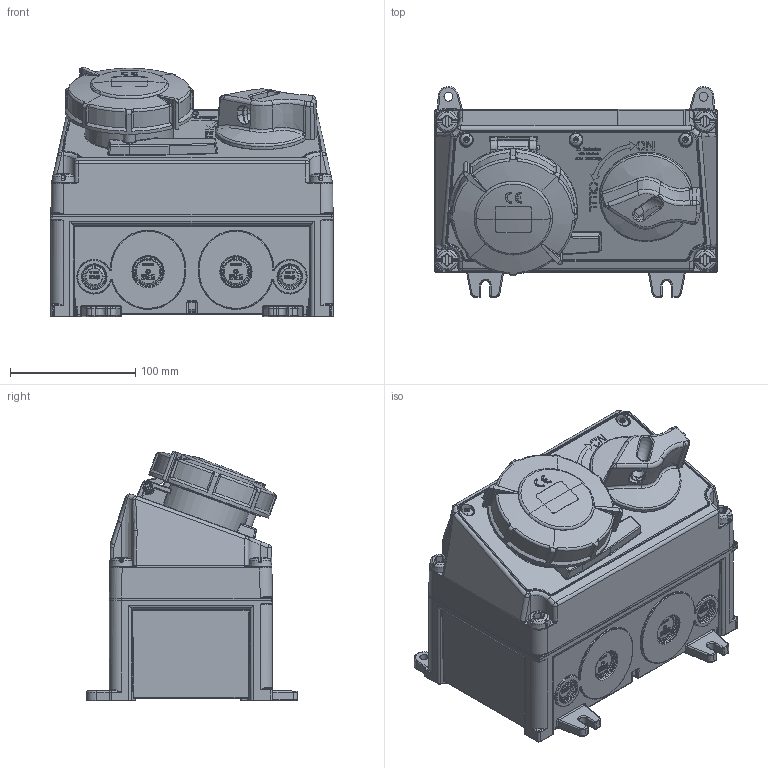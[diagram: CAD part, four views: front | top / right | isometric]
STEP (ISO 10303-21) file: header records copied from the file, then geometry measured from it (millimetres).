
FILE_DESCRIPTION((''),'2;1');
FILE_NAME('7636-0_ASM','2018-06-07T',('menccconvadm'),('MENNEKES'),'PRO/ENGINEER BY PARAMETRIC TECHNOLOGY CORPORATION, 2015440','PRO/ENGINEER BY PARAMETRIC TECHNOLOGY CORPORATION, 2015440','');
FILE_SCHEMA(('AUTOMOTIVE_DESIGN { 1 0 10303 214 1 1 1 1 }'));
Products named in the file (22): 1-4_SW_O_GRAU; PLATZHALTER_GKS2; PLATZHALTER_GKS3; PLATZHALTER_GKS4; PLATZHALTER_GKS5; PLATZHALTER_GKS6; PLATZHALTER_GKS7; PLATZHALTER_GKS8; PLATZHALTER_GKS9; PLATZHALTER_GKS10; PLATZHALTER_GKS11; PLATZHALTER_GKS12; PLATZHALTER_GKS13; PLATZHALTER_GKS14; PLATZHALTER_GKS15; PLATZHALTER_GKS16; PLATZHALTER_GKS17; PLATZHALTER_GKS18; PLATZHALTER_GKS19; PLATZHALTER_GKS20; MP_DUO_32_5_67_ROT_GRAU; 7636-0_ASM
Assembly tree (21 placements, depth 2):
  7636-0_ASM
    1-4_SW_O_GRAU
    PLATZHALTER_GKS2
    PLATZHALTER_GKS3
    PLATZHALTER_GKS4
    PLATZHALTER_GKS5
    PLATZHALTER_GKS6
    PLATZHALTER_GKS7
    PLATZHALTER_GKS8
    PLATZHALTER_GKS9
    PLATZHALTER_GKS10
    PLATZHALTER_GKS11
    PLATZHALTER_GKS12
    PLATZHALTER_GKS13
    PLATZHALTER_GKS14
    PLATZHALTER_GKS15
    PLATZHALTER_GKS16
    PLATZHALTER_GKS17
    PLATZHALTER_GKS18
    PLATZHALTER_GKS19
    PLATZHALTER_GKS20
    MP_DUO_32_5_67_ROT_GRAU
Bounding box: 225 x 168.2 x 199.08 mm (x, y, z)
Volume: 3056842.5 mm3; surface area: 363206.2 mm2
Topology: 2 solids, 2 shells, 6193 faces, 15986 edges, 9996 vertices
Faces by surface type: plane 3300, cylinder 1140, bspline 900, torus 507, cone 186, sphere 148, extrusion 12
Entity records: 303635 total; most frequent: CARTESIAN_POINT 94953, ORIENTED_EDGE 31932, DIRECTION 27258, EDGE_CURVE 15966, PRESENTATION_STYLE_ASSIGNMENT 12051, VERTEX_POINT 9994, STYLED_ITEM 9964, VECTOR 9922
